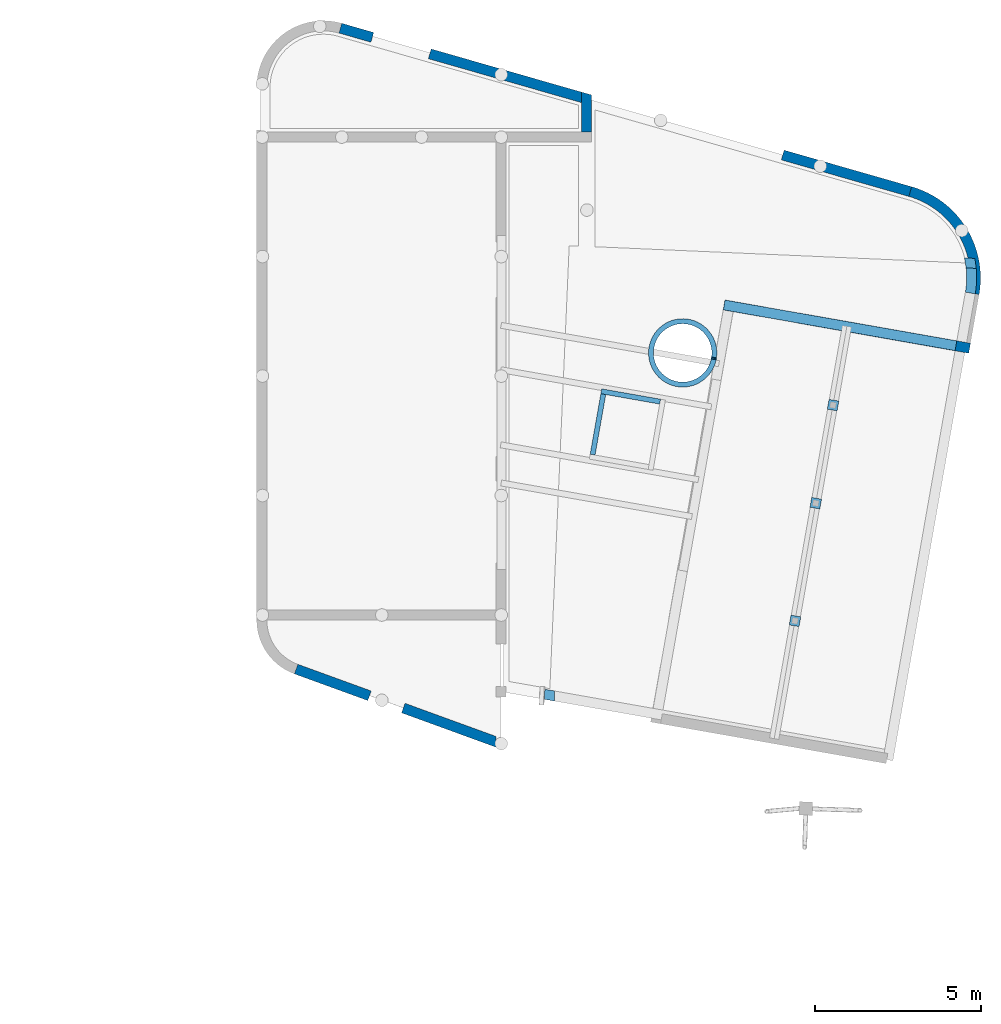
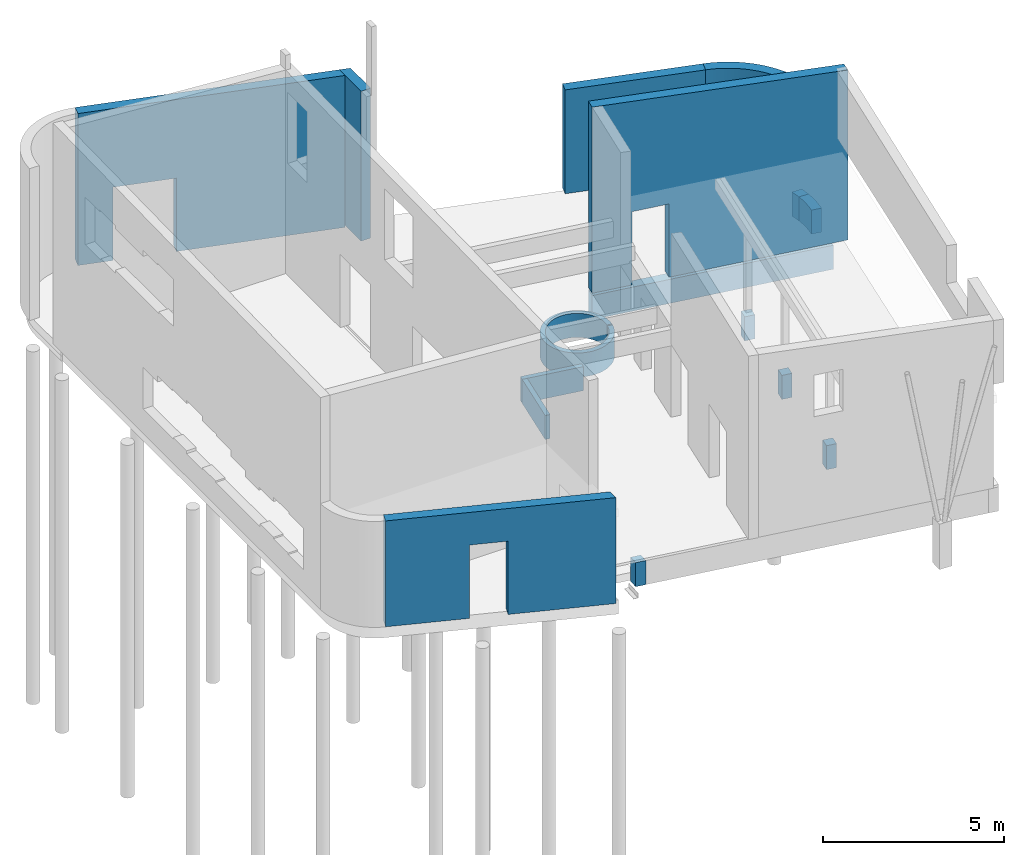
# One storey, part 3 of 3: 17 walls, 3 openings.
"""IFC2X3 building model written with IfcOpenShell, lengths in millimetres."""

from ifc_helpers import new_model, entity, si_unit, converted_unit, derived_unit, direction, frame, frame_2d, origin, place, context, subcontext, project, spatial, polyline, circle_curve, parameter, trimmed, segment, composite_curve, rectangle, outline, extrude, clip, bounded_halfspace, faceted_brep, material, layer, layer_set, layer_usage, type_object, element, save


model = new_model("IFC2X3")

# Units and contexts
model_context = context("Model", 3, precision=0.01, world=origin(), true_north=direction((6.12303176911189e-17, 1.0)))
context_of_model = context(None, 3, precision=0.01, world=origin(), true_north=direction((6.12303176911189e-17, 1.0)))
body_context = subcontext(model_context, "Body", "Model", "MODEL_VIEW")
ifc_project = project(units=[si_unit("LENGTHUNIT", "METRE", prefix="MILLI"), si_unit("AREAUNIT", "SQUARE_METRE"), si_unit("VOLUMEUNIT", "CUBIC_METRE"), converted_unit("PLANEANGLEUNIT", "DEGREE", entity("IfcRatioMeasure", 0.0174532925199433), si_unit("PLANEANGLEUNIT", "RADIAN"), dimensions=[0, 0, 0, 0, 0, 0, 0]), si_unit("MASSUNIT", "GRAM", prefix="KILO"), derived_unit("MASSDENSITYUNIT", [(si_unit("MASSUNIT", "GRAM", prefix="KILO"), 1), (si_unit("LENGTHUNIT", "METRE"), -3)]), derived_unit("MOMENTOFINERTIAUNIT", [(si_unit("LENGTHUNIT", "METRE"), 4)]), si_unit("TIMEUNIT", "SECOND"), si_unit("FREQUENCYUNIT", "HERTZ"), si_unit("THERMODYNAMICTEMPERATUREUNIT", "DEGREE_CELSIUS"), derived_unit("THERMALTRANSMITTANCEUNIT", [(si_unit("MASSUNIT", "GRAM", prefix="KILO"), 1), (si_unit("THERMODYNAMICTEMPERATUREUNIT", "KELVIN"), -1), (si_unit("TIMEUNIT", "SECOND"), -3)]), derived_unit("VOLUMETRICFLOWRATEUNIT", [(si_unit("LENGTHUNIT", "METRE"), 3), (si_unit("TIMEUNIT", "SECOND"), -1)]), si_unit("ELECTRICCURRENTUNIT", "AMPERE"), si_unit("ELECTRICVOLTAGEUNIT", "VOLT"), si_unit("POWERUNIT", "WATT"), si_unit("FORCEUNIT", "NEWTON", prefix="KILO"), si_unit("ILLUMINANCEUNIT", "LUX"), si_unit("LUMINOUSFLUXUNIT", "LUMEN"), si_unit("LUMINOUSINTENSITYUNIT", "CANDELA"), derived_unit("USERDEFINED", [(si_unit("MASSUNIT", "GRAM", prefix="KILO"), -1), (si_unit("LENGTHUNIT", "METRE"), -2), (si_unit("TIMEUNIT", "SECOND"), 3), (si_unit("LUMINOUSFLUXUNIT", "LUMEN"), 1)]), derived_unit("LINEARVELOCITYUNIT", [(si_unit("LENGTHUNIT", "METRE"), 1), (si_unit("TIMEUNIT", "SECOND"), -1)]), si_unit("PRESSUREUNIT", "PASCAL"), derived_unit("USERDEFINED", [(si_unit("LENGTHUNIT", "METRE"), -2), (si_unit("MASSUNIT", "GRAM", prefix="KILO"), 1), (si_unit("TIMEUNIT", "SECOND"), -2)]), derived_unit("LINEARFORCEUNIT", [(si_unit("MASSUNIT", "GRAM", prefix="KILO"), 1), (si_unit("LENGTHUNIT", "METRE"), 1), (si_unit("TIMEUNIT", "SECOND"), -2), (si_unit("LENGTHUNIT", "METRE"), -1)]), derived_unit("PLANARFORCEUNIT", [(si_unit("MASSUNIT", "GRAM", prefix="KILO"), 1), (si_unit("LENGTHUNIT", "METRE"), 1), (si_unit("TIMEUNIT", "SECOND"), -2), (si_unit("LENGTHUNIT", "METRE"), -2)])], contexts=[model_context, context_of_model])

# Site, building, storey
site_placement = place(None, origin())
site = spatial("IfcSite", under=ifc_project, at=site_placement, Name="Default", CompositionType="ELEMENT")
building_placement = place(site_placement, origin())
building = spatial("IfcBuilding", under=site, at=building_placement, Name="IFc", CompositionType="ELEMENT")
storey_placement = place(building_placement, frame((0.0, 0.0, -70.0)))
storey = spatial("IfcBuildingStorey", under=building, at=storey_placement, Name="00 begane grond b.k. ruwe vloer", CompositionType="ELEMENT", Elevation=-70.0)

# Walls
ifc_material_1 = material(Name="IMd_underlayment")
ifc_layer_1 = layer(ifc_material_1, 18.0)
ifc_material_2 = material(Name="IMd_hout")
ifc_layer_2 = layer(ifc_material_2, 270.0)
ifc_layer_3 = layer(ifc_material_1, 18.0)
ifc_layer_set_1 = layer_set([ifc_layer_1, ifc_layer_2, ifc_layer_3], Name="Basic Wall:NLRS_28_WA HSB_d=271")
ifc_layer_usage_1 = layer_usage(ifc_layer_set_1, "AXIS2", "NEGATIVE", 153.0)
wall_type_1 = type_object("IfcWallType", Name="Basic Wall:NLRS_28_WA HSB_d=271", PredefinedType="STANDARD", material=ifc_layer_set_1)
wall_1_placement = place(storey_placement, frame((19759.6696056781, 24550.0, 70.0), z_axis=(0.0, 0.0, 1.0), x_axis=(0.0, 1.0, 0.0)))
element("IfcWallStandardCase", 1, at=wall_1_placement, inside=storey, type_object=wall_type_1, material=ifc_layer_usage_1, Name="Basic Wall:NLRS_28_WA HSB_d=271", ObjectType="Basic Wall:NLRS_28_WA HSB_d=271", context=body_context, shape_type="SweptSolid", body=[
    extrude(outline(polyline([(0.473272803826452, -556.489996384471), (318.816078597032, -556.489996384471), (-12.5768006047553, 598.680518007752), (-306.712550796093, 514.299474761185), (0.473272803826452, -556.489996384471)])), frame((578.936558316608, 0.0, 0.0), z_axis=(0.0, 0.0, 1.0), x_axis=(0.275755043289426, 0.96122794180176, 0.0)), (0.0, 0.0, 1.0), 5049.99999999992),
])
wall_2_placement = place(storey_placement, frame((17077.3165004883, 6159.10750160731, 0.0), z_axis=(0.0, 0.0, 1.0), x_axis=(-0.939722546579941, 0.341937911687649, 0.0)))
element("IfcWall", 2, at=wall_2_placement, inside=storey, type_object=wall_type_1, Name="Basic Wall:NLRS_28_WA HSB_d=271", ObjectType="Basic Wall:NLRS_28_WA HSB_d=271", context=body_context, shape_type="Brep", body=[
    faceted_brep([(111.344567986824, -153.0, 3570.0), (111.344567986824, -153.0, 0.0), (3022.73798114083, -153.0, 0.0), (3022.73798114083, -153.0, 2470.0), (4106.73797699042, -153.0, 2470.0), (4106.73797699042, -153.0, 0.0), (6457.98108461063, -153.0, 0.0), (6457.98108461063, -153.0, 3570.0), (0.0, 153.0, 0.0), (0.0, 153.0, 70.0), (0.0, 153.0, 3570.0), (6457.98108461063, 153.0, 3570.0), (6457.98108461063, 153.0, 0.0), (4106.73797699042, 153.0, 0.0), (4106.73797699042, 153.0, 2470.0), (3022.73798114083, 153.0, 2470.0), (3022.73798114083, 153.0, 0.0)], [[[0, 1, 2, 3, 4, 5, 6, 7]], [[8, 9, 10, 11, 12, 13, 14, 15, 16]], [[0, 10, 9, 8, 1]], [[6, 5, 13, 12]], [[7, 6, 12, 11]], [[0, 7, 11, 10]], [[2, 1, 8, 16]], [[3, 2, 16, 15]], [[4, 3, 15, 14]], [[5, 4, 14, 13]]]),
])
wall_3_placement = place(storey_placement, frame((19648.8601273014, 25580.4905030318, 0.0), z_axis=(0.0, 0.0, 1.0), x_axis=(-0.961227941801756, 0.27575504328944, 0.0)))
element("IfcWall", 3, at=wall_3_placement, inside=storey, type_object=wall_type_1, Name="Basic Wall:NLRS_28_WA HSB_d=271", ObjectType="Basic Wall:NLRS_28_WA HSB_d=271", context=body_context, shape_type="Brep", body=[
    faceted_brep([(87.7846341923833, -153.0, 0.0), (4802.19558161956, -153.0, 0.0), (4802.19558161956, -153.0, 2470.0), (6602.19558161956, -153.0, 2470.0), (6602.19558161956, -153.0, 0.0), (7603.77169760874, -153.0, 0.0), (7603.77169760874, -153.0, 5120.0), (87.7846341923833, -153.0, 5120.0), (87.7846341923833, -153.0, 70.0), (0.0, 153.0, 0.0), (0.0, 153.0, 5120.0), (7603.77169760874, 153.0, 5120.0), (7603.77169760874, 153.0, 0.0), (6602.19558161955, 153.0, 0.0), (6602.19558161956, 153.0, 2470.0), (4802.19558161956, 153.0, 2470.0), (4802.19558161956, 153.0, 0.0)], [[[0, 1, 2, 3, 4, 5, 6, 7, 8]], [[9, 10, 11, 12, 13, 14, 15, 16]], [[1, 0, 9, 16]], [[6, 5, 12, 11]], [[7, 6, 11, 10]], [[2, 1, 16, 15]], [[3, 2, 15, 14]], [[4, 3, 14, 13]], [[5, 4, 13, 12]], [[0, 8, 7, 10, 9]]]),
])
ifc_layer_usage_2 = layer_usage(ifc_layer_set_1, "AXIS2", "NEGATIVE", 153.0)
wall_4_placement = place(storey_placement, frame((29511.3582669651, 22753.3064815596, 70.0), z_axis=(0.0, 0.0, 1.0), x_axis=(-0.961261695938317, 0.275637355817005, 0.0)))
element("IfcWallStandardCase", 4, at=wall_4_placement, inside=storey, type_object=wall_type_1, material=ifc_layer_usage_2, Name="Basic Wall:NLRS_28_WA HSB_d=271", ObjectType="Basic Wall:NLRS_28_WA HSB_d=271", context=body_context, shape_type="SweptSolid", body=[
    extrude(rectangle(XDim=3999.22918546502, YDim=306.000000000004, at=frame_2d((1999.61459273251, 5.82645043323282e-13), x_axis=(-1.0, 0.0))), origin(), (0.0, 0.0, 1.0), 3499.99999999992),
])

# Wall, opening
ifc_layer_usage_3 = layer_usage(ifc_layer_set_1, "AXIS2", "NEGATIVE", 153.0)
wall_5_placement = place(storey_placement, frame((31298.7644464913, 18034.5306784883, 70.0), z_axis=(0.0, 0.0, 1.0), x_axis=(-0.984807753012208, 0.173648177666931, 0.0)))
wall_5 = element("IfcWallStandardCase", 5, at=wall_5_placement, inside=storey, type_object=wall_type_1, material=ifc_layer_usage_3, Name="Basic Wall:NLRS_28_WA HSB_d=271", ObjectType="Basic Wall:NLRS_28_WA HSB_d=271", context=body_context, shape_type="Clipping", body=[
    clip(extrude(rectangle(XDim=7511.58881505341, YDim=306.0, at=frame_2d((3755.79440752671, 4.12114786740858e-13), x_axis=(-1.0, 0.0))), origin(), (0.0, 0.0, 1.0), 6274.69975053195), bounded_halfspace(frame((0.0101037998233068, -153.0, 5728.6161692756), z_axis=(0.0725054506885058, -0.00762051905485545, -0.997338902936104), x_axis=(0.991875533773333, -0.104248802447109, 0.0729048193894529)), True, frame((0.0101037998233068, -153.0, 5728.6161692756)), polyline([(0.0, 0.0), (7511.57871125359, 0.0), (7511.57871125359, 306.0), (7205.57871125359, 306.0), (305.989896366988, 306.0), (-0.0101037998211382, 306.0), (0.0, 0.0)]))),
])
opening_1_placement = place(wall_5_placement, origin())
element("IfcOpeningElement", 6, at=opening_1_placement, cuts=wall_5, Name="Basic Wall:NLRS_28_WA HSB_d=271", ObjectType="Opening", context=body_context, shape_type="SweptSolid", body=[
    extrude(rectangle(XDim=2470.00000000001, YDim=1083.99999999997, at=frame_2d((0.0, 0.0), x_axis=(0.0, 1.0))), frame((5795.27387890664, 153.0, 1235.0), z_axis=(0.0, -1.0, 0.0), x_axis=(1.0, 0.0, 0.0)), (0.0, 0.0, 1.0), 306.0),
])

# Walls
ifc_layer_usage_4 = layer_usage(ifc_layer_set_1, "AXIS2", "POSITIVE", -153.0)
wall_6_placement = place(storey_placement, frame((29511.3582669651, 22753.3064815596, 70.0)))
element("IfcWallStandardCase", 7, at=wall_6_placement, inside=storey, type_object=wall_type_1, material=ifc_layer_usage_4, Name="Basic Wall:NLRS_28_WA HSB_d=271", ObjectType="Basic Wall:NLRS_28_WA HSB_d=271", context=body_context, shape_type="SweptSolid", body=[
    extrude(outline(composite_curve([segment(trimmed(circle_curve(frame_2d((-745.960612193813, -2604.27029416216), x_axis=(1.0, 0.0)), 2862.0), [parameter(350.000000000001)], [parameter(74.016302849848)], True, "PARAMETER"), True, "CONTINUOUS"), segment(polyline([(42.1306658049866, 147.085033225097), (-42.130665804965, -147.085033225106)]), True, "CONTINUOUS"), segment(trimmed(circle_curve(frame_2d((-745.960612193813, -2604.27029416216), x_axis=(1.0, 0.0)), 2556.0), [parameter(350.000000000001)], [parameter(74.016302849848)], True, "PARAMETER"), False, "CONTINUOUS"), segment(polyline([(1771.2080045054, -3048.11503627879), (2072.55917692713, -3101.25137864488)]), True, "CONTINUOUS")], self_intersect=False)), origin(), (0.0, 0.0, 1.0), 3499.99999999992),
])
ifc_material_3 = material(Name="IMd_beton_prefab")
ifc_layer_4 = layer(ifc_material_3, 300.0)
ifc_layer_set_2 = layer_set([ifc_layer_4], Name="Basic Wall:NLRS_16_WA Funderingsbalk_beton_prefab_300x810")
ifc_layer_usage_5 = layer_usage(ifc_layer_set_2, "AXIS2", "NEGATIVE", 150.0)
wall_type_2 = type_object("IfcWallType", Name="Basic Wall:NLRS_16_WA Funderingsbalk_beton_prefab_300x810", PredefinedType="STANDARD", material=ifc_layer_set_2)
wall_7_placement = place(storey_placement, frame((23904.2418366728, 19338.3474189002, -820.0), z_axis=(0.0, 0.0, 1.0), x_axis=(0.984850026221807, -0.173408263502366, 0.0)))
element("IfcWallStandardCase", 8, at=wall_7_placement, inside=storey, type_object=wall_type_2, material=ifc_layer_usage_5, Name="Basic Wall:NLRS_16_WA Funderingsbalk_beton_prefab_300x810", ObjectType="Basic Wall:NLRS_16_WA Funderingsbalk_beton_prefab_300x810", context=body_context, shape_type="SweptSolid", body=[
    extrude(outline(polyline([(7090.55211074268, -150.0), (7090.61528805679, 150.0), (0.0, 150.0), (0.0, -150.0), (300.0, -150.0), (7090.55211074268, -150.0)])), origin(), (0.0, 0.0, 1.0), 810.0),
])
ifc_layer_usage_6 = layer_usage(ifc_layer_set_2, "AXIS2", "POSITIVE", -150.0)
wall_8_placement = place(storey_placement, frame((31344.3780423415, 20469.9798954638, -820.0)))
element("IfcWallStandardCase", 9, at=wall_8_placement, inside=storey, type_object=wall_type_2, material=ifc_layer_usage_6, Name="Basic Wall:NLRS_16_WA Funderingsbalk_beton_prefab_300x810", ObjectType="Basic Wall:NLRS_16_WA Funderingsbalk_beton_prefab_300x810", context=body_context, shape_type="SweptSolid", body=[
    extrude(outline(composite_curve([segment(trimmed(circle_curve(frame_2d((-2692.23049711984, -300.958386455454), x_axis=(1.0, 0.0)), 2859.0), [parameter(350.001891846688)], [parameter(5.44015134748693)], True, "PARAMETER"), True, "CONTINUOUS"), segment(polyline([(153.891913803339, -29.908165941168), (-149.07145609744, -16.6643624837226)]), True, "CONTINUOUS"), segment(trimmed(circle_curve(frame_2d((-2692.23049711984, -300.958386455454), x_axis=(1.0, 0.0)), 2559.0), [parameter(350.001891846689)], [parameter(6.37848459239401)], True, "PARAMETER"), False, "CONTINUOUS"), segment(polyline([(-172.09278604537, -745.24086103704), (123.351259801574, -797.325559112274)]), True, "CONTINUOUS")], self_intersect=False)), origin(), (0.0, 0.0, 1.0), 810.0),
])
ifc_layer_usage_7 = layer_usage(ifc_layer_set_2, "AXIS2", "NEGATIVE", 150.0)
wall_9_placement = place(storey_placement, frame((27158.8635610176, 16172.1722400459, -820.0), z_axis=(0.0, 0.0, 1.0), x_axis=(0.173408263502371, 0.984850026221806, 0.0)))
element("IfcWallStandardCase", 10, at=wall_9_placement, inside=storey, type_object=wall_type_2, material=ifc_layer_usage_7, Name="Basic Wall:NLRS_16_WA Funderingsbalk_beton_prefab_300x810", ObjectType="Basic Wall:NLRS_16_WA Funderingsbalk_beton_prefab_300x810", context=body_context, shape_type="SweptSolid", body=[
    extrude(rectangle(XDim=299.999999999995, YDim=299.999999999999, at=frame_2d((149.999999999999, 8.81072992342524e-13), x_axis=(-1.0, 0.0))), origin(), (0.0, 0.0, 1.0), 810.0),
])
ifc_layer_usage_8 = layer_usage(ifc_layer_set_2, "AXIS2", "NEGATIVE", 150.0)
wall_10_placement = place(storey_placement, frame((26637.9190280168, 13217.7489810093, -820.0), z_axis=(0.0, 0.0, 1.0), x_axis=(0.173408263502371, 0.984850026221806, 0.0)))
element("IfcWallStandardCase", 11, at=wall_10_placement, inside=storey, type_object=wall_type_2, material=ifc_layer_usage_8, Name="Basic Wall:NLRS_16_WA Funderingsbalk_beton_prefab_300x810", ObjectType="Basic Wall:NLRS_16_WA Funderingsbalk_beton_prefab_300x810", context=body_context, shape_type="SweptSolid", body=[
    extrude(rectangle(XDim=300.000000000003, YDim=300.0, at=frame_2d((150.000000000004, 1.63424829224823e-12), x_axis=(-1.0, 0.0))), origin(), (0.0, 0.0, 1.0), 810.0),
])
ifc_layer_usage_9 = layer_usage(ifc_layer_set_2, "AXIS2", "NEGATIVE", 150.0)
wall_11_placement = place(storey_placement, frame((26012.7855884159, 9672.44107016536, -820.0), z_axis=(0.0, 0.0, 1.0), x_axis=(0.173408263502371, 0.984850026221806, 0.0)))
element("IfcWallStandardCase", 12, at=wall_11_placement, inside=storey, type_object=wall_type_2, material=ifc_layer_usage_9, Name="Basic Wall:NLRS_16_WA Funderingsbalk_beton_prefab_300x810", ObjectType="Basic Wall:NLRS_16_WA Funderingsbalk_beton_prefab_300x810", context=body_context, shape_type="SweptSolid", body=[
    extrude(rectangle(XDim=299.999999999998, YDim=299.999999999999, at=frame_2d((150.000000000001, 1.16529008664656e-12), x_axis=(-1.0, 0.0))), origin(), (0.0, 0.0, 1.0), 810.0),
])

# Wall, opening
ifc_layer_usage_10 = layer_usage(ifc_layer_set_2, "AXIS2", "NEGATIVE", 150.0)
wall_12_placement = place(storey_placement, frame((31139.364782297, 20605.9042360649, -820.0), z_axis=(0.0, 0.0, 1.0), x_axis=(0.999045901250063, -0.0436724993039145, 0.0)))
wall_12 = element("IfcWallStandardCase", 13, at=wall_12_placement, inside=storey, type_object=wall_type_2, material=ifc_layer_usage_10, Name="Basic Wall:NLRS_16_WA Funderingsbalk_beton_prefab_300x810", ObjectType="Basic Wall:NLRS_16_WA Funderingsbalk_beton_prefab_300x810", context=body_context, shape_type="SweptSolid", body=[
    extrude(outline(composite_curve([segment(polyline([(307.452557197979, 150.0), (0.0, 150.0)]), True, "CONTINUOUS"), segment(polyline([(0.0, 150.0), (62.5111492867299, -150.0)]), True, "CONTINUOUS"), segment(polyline([(62.5111492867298, -150.0), (365.805062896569, -150.0)]), True, "CONTINUOUS"), segment(trimmed(circle_curve(frame_2d((-2465.76442562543, -545.08889084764), x_axis=(0.999045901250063, 0.0436724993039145)), 2859.0), [parameter(5.44015134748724)], [parameter(11.5678947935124)], True, "PARAMETER"), True, "CONTINUOUS")], self_intersect=False)), origin(), (0.0, 0.0, 1.0), 810.0),
])
opening_2_placement = place(wall_12_placement, origin())
element("IfcOpeningElement", 14, at=opening_2_placement, cuts=wall_12, Name="Basic Wall:NLRS_16_WA Funderingsbalk_beton_prefab_300x810", ObjectType="Opening", context=body_context, shape_type="SweptSolid", body=[
    extrude(rectangle(XDim=1000.0, YDim=160.0, at=frame_2d((0.0, -3.48165940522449e-13), x_axis=(1.0, 0.0))), frame((8.85226316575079, -284.661057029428, 470.0), z_axis=(-0.203989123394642, 0.978973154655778, 0.0), x_axis=(0.0, 0.0, 1.0)), (0.0, 0.0, 1.0), 454.55791906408),
])

ifc_layer_usage_11 = layer_usage(ifc_layer_set_2, "AXIS2", "NEGATIVE", 150.0)
wall_13_placement = place(storey_placement, frame((18635.7317877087, 7411.4842557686, -820.0), z_axis=(0.0, 0.0, 1.0), x_axis=(0.0436724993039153, 0.999045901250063, 0.0)))
wall_13 = element("IfcWallStandardCase", 15, at=wall_13_placement, inside=storey, type_object=wall_type_2, material=ifc_layer_usage_11, Name="Basic Wall:NLRS_16_WA Funderingsbalk_beton_prefab_300x810", ObjectType="Basic Wall:NLRS_16_WA Funderingsbalk_beton_prefab_300x810", context=body_context, shape_type="SweptSolid", body=[
    extrude(outline(polyline([(342.066094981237, 150.0), (39.4795241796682, 150.0), (0.0, -150.0), (302.586570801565, -150.0), (342.066094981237, 150.0)])), origin(), (0.0, 0.0, 1.0), 810.0),
])
opening_3_placement = place(wall_13_placement, origin())
element("IfcOpeningElement", 16, at=opening_3_placement, cuts=wall_13, Name="Basic Wall:NLRS_16_WA Funderingsbalk_beton_prefab_300x810", ObjectType="Opening", context=body_context, shape_type="SweptSolid", body=[
    extrude(rectangle(XDim=1000.0, YDim=140.0, at=frame_2d((0.0, 7.17648163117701e-13), x_axis=(1.0, 0.0))), frame((-101.558283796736, -385.221304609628, 470.0), z_axis=(0.130473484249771, 0.991451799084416, 0.0), x_axis=(0.0, 0.0, 1.0)), (0.0, 0.0, 1.0), 589.999999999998),
])

# Walls
ifc_layer_5 = layer(ifc_material_3, 150.0)
ifc_layer_set_3 = layer_set([ifc_layer_5], Name="Basic Wall:NLRS_16_WA Funderingsbalk_beton_prefab_150x810")
ifc_layer_usage_12 = layer_usage(ifc_layer_set_3, "AXIS2", "NEGATIVE", 75.0)
wall_type_3 = type_object("IfcWallType", Name="Basic Wall:NLRS_16_WA Funderingsbalk_beton_prefab_150x810", PredefinedType="STANDARD", material=ifc_layer_set_3)
wall_14_placement = place(storey_placement, frame((23598.5390452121, 17750.7490171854, -820.0), z_axis=(0.0, 0.0, 1.0), x_axis=(0.999999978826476, 0.000205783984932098, 0.0)))
element("IfcWallStandardCase", 17, at=wall_14_placement, inside=storey, type_object=wall_type_3, material=ifc_layer_usage_12, Name="Basic Wall:NLRS_16_WA Funderingsbalk_beton_prefab_150x810", ObjectType="Basic Wall:NLRS_16_WA Funderingsbalk_beton_prefab_150x810", context=body_context, shape_type="SweptSolid", body=[
    extrude(outline(composite_curve([segment(trimmed(circle_curve(frame_2d((-944.216718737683, 143.107610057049), x_axis=(1.0, 0.0)), 880.0), [parameter(351.495814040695)], [parameter(348.480604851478)], True, "PARAMETER"), False, "CONTINUOUS"), segment(polyline([(-73.8922642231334, 12.97174307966), (74.1531454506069, -11.2388175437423)]), True, "CONTINUOUS"), segment(polyline([(74.1531454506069, -11.2388175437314), (84.2449452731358, 86.8350087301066)]), True, "CONTINUOUS"), segment(polyline([(84.2449452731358, 86.8350087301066), (84.9143344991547, 185.407435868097)]), True, "CONTINUOUS"), segment(polyline([(84.9143344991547, 185.407435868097), (76.1539194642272, 283.597913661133)]), True, "CONTINUOUS"), segment(polyline([(76.1539194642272, 283.597913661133), (54.8556749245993, 393.615797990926)]), True, "CONTINUOUS"), segment(polyline([(54.8556749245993, 393.615797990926), (21.7263793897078, 500.674290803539)]), True, "CONTINUOUS"), segment(polyline([(21.7263793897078, 500.674290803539), (-22.837873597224, 603.499859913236)]), True, "CONTINUOUS"), segment(polyline([(-22.837873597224, 603.499859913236), (-78.3095257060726, 700.875243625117)]), True, "CONTINUOUS"), segment(polyline([(-78.3095257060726, 700.875243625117), (-144.031895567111, 791.647700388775)]), True, "CONTINUOUS"), segment(polyline([(-144.031895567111, 791.647700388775), (-219.22695266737, 874.742655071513)]), True, "CONTINUOUS"), segment(polyline([(-219.22695266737, 874.742655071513), (-303.004527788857, 949.176419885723)]), True, "CONTINUOUS"), segment(polyline([(-303.004527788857, 949.176419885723), (-394.372850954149, 1014.06783937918)]), True, "CONTINUOUS"), segment(polyline([(-394.372850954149, 1014.06783937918), (-492.250292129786, 1068.6487216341)]), True, "CONTINUOUS"), segment(polyline([(-492.250292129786, 1068.6487216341), (-595.478165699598, 1112.27293218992)]), True, "CONTINUOUS"), segment(polyline([(-595.478165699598, 1112.27293218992), (-702.834447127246, 1144.42404303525)]), True, "CONTINUOUS"), segment(polyline([(-702.834447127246, 1144.42404303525), (-813.048239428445, 1164.72144612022)]), True, "CONTINUOUS"), segment(polyline([(-813.048239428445, 1164.72144612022), (-924.814818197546, 1172.924859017)]), True, "CONTINUOUS"), segment(polyline([(-924.814818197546, 1172.924859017), (-1036.81107708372, 1168.93716939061)]), True, "CONTINUOUS"), segment(polyline([(-1036.81107708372, 1168.93716939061), (-1147.71119087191, 1152.80558460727)]), True, "CONTINUOUS"), segment(polyline([(-1147.71119087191, 1152.80558460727), (-1256.20231074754, 1124.72107287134)]), True, "CONTINUOUS"), segment(polyline([(-1256.20231074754, 1124.72107287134), (-1361.00010594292, 1085.01610250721)]), True, "CONTINUOUS"), segment(polyline([(-1361.00010594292, 1085.01610250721), (-1460.86396778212, 1034.16070614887)]), True, "CONTINUOUS"), segment(polyline([(-1460.86396778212, 1034.16070614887), (-1554.61169613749, 972.756916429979)]), True, "CONTINUOUS"), segment(polyline([(-1554.61169613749, 972.756916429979), (-1641.13349443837, 901.531639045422)]), True, "CONTINUOUS"), segment(polyline([(-1641.13349443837, 901.531639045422), (-1719.40510755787, 821.328047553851)]), True, "CONTINUOUS"), segment(polyline([(-1719.40510755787, 821.328047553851), (-1788.49994705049, 733.095601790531)]), True, "CONTINUOUS"), segment(polyline([(-1788.49994705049, 733.095601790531), (-1847.60006020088, 637.878808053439)]), True, "CONTINUOUS"), segment(polyline([(-1847.60006020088, 637.878808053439), (-1896.00581303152, 536.804854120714)]), True, "CONTINUOUS"), segment(polyline([(-1896.00581303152, 536.804854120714), (-1933.14417264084, 431.070265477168)]), True, "CONTINUOUS"), segment(polyline([(-1933.14417264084, 431.070265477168), (-1958.57549082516, 321.926740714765)]), True, "CONTINUOUS"), segment(polyline([(-1958.57549082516, 321.926740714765), (-1971.99870867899, 210.666333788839)]), True, "CONTINUOUS"), segment(polyline([(-1971.99870867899, 210.666333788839), (-1973.2549205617, 98.6061585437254)]), True, "CONTINUOUS"), segment(polyline([(-1973.2549205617, 98.6061585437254), (-1962.32925523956, -12.9272034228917)]), True, "CONTINUOUS"), segment(polyline([(-1962.32925523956, -12.9272034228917), (-1939.35105193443, -122.613406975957)]), True, "CONTINUOUS"), segment(polyline([(-1939.35105193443, -122.613406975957), (-1904.59232919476, -229.153973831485)]), True, "CONTINUOUS"), segment(polyline([(-1904.59232919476, -229.153973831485), (-1858.46456471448, -331.287664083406)]), True, "CONTINUOUS"), segment(polyline([(-1858.46456471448, -331.287664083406), (-1801.51382422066, -427.805406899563)]), True, "CONTINUOUS"), segment(polyline([(-1801.51382422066, -427.805406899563), (-1734.4142970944, -517.564613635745)]), True, "CONTINUOUS"), segment(polyline([(-1734.4142970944, -517.564613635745), (-1657.96031525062, -599.502703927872)]), True, "CONTINUOUS"), segment(polyline([(-1657.96031525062, -599.502703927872), (-1573.05694975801, -672.649684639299)]), True, "CONTINUOUS"), segment(polyline([(-1573.05694975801, -672.649684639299), (-1480.709296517, -736.139632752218)]), True, "CONTINUOUS"), segment(polyline([(-1480.709296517, -736.139632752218), (-1382.01057783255, -789.220946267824)]), True, "CONTINUOUS"), segment(polyline([(-1382.01057783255, -789.220946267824), (-1278.1292007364, -831.265241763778)]), True, "CONTINUOUS"), segment(polyline([(-1278.1292007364, -831.265241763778), (-1170.29492526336, -861.774793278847)]), True, "CONTINUOUS"), segment(polyline([(-1170.29492526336, -861.774793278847), (-1059.78430642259, -880.388424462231)]), True, "CONTINUOUS"), segment(polyline([(-1059.78430642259, -880.388424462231), (-947.905582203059, -886.885784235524)]), True, "CONTINUOUS"), segment(polyline([(-947.905582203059, -886.885784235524), (-835.983186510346, -881.189955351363)]), True, "CONTINUOUS"), segment(polyline([(-835.983186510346, -881.189955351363), (-725.342070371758, -863.368364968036)]), True, "CONTINUOUS"), segment(polyline([(-725.342070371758, -863.368364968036), (-617.292017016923, -833.63198646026)]), True, "CONTINUOUS"), segment(polyline([(-617.292017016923, -833.63198646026), (-513.112136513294, -792.332841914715)]), True, "CONTINUOUS"), segment(polyline([(-513.112136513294, -792.332841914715), (-414.035723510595, -739.959834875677)]), True, "CONTINUOUS"), segment(polyline([(-414.035723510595, -739.959834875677), (-321.235657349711, -677.132962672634)]), True, "CONTINUOUS"), segment(polyline([(-321.235657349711, -677.132962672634), (-235.810517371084, -604.595976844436)]), True, "CONTINUOUS"), segment(polyline([(-235.810517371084, -604.595976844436), (-158.771577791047, -523.207578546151)]), True, "CONTINUOUS"), segment(polyline([(-158.771577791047, -523.207578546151), (-91.0308361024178, -433.931253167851)]), True, "CONTINUOUS"), segment(polyline([(-91.0308361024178, -433.931253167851), (-33.3959214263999, -337.828124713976)]), True, "CONTINUOUS"), segment(polyline([(-33.3959214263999, -337.828124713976), (8.34877326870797, -248.707376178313)]), True, "CONTINUOUS"), segment(polyline([(8.34877326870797, -248.707376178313), (41.3929359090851, -156.013784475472)]), True, "CONTINUOUS"), segment(polyline([(41.3929359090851, -156.013784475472), (65.443772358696, -60.5727589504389)]), True, "CONTINUOUS"), segment(polyline([(65.4437723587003, -60.5727589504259), (-81.9424174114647, -32.6280700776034)]), True, "CONTINUOUS")], self_intersect=False)), origin(), (0.0, 0.0, 1.0), 810.000000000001),
])
ifc_layer_usage_13 = layer_usage(ifc_layer_set_3, "AXIS2", "NEGATIVE", 75.0)
wall_15_placement = place(storey_placement, frame((20201.3635393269, 16737.5731920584, -820.0), z_axis=(0.0, 0.0, 1.0), x_axis=(0.984807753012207, -0.173648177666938, 0.0)))
element("IfcWallStandardCase", 18, at=wall_15_placement, inside=storey, type_object=wall_type_3, material=ifc_layer_usage_13, Name="Basic Wall:NLRS_16_WA Funderingsbalk_beton_prefab_150x810", ObjectType="Basic Wall:NLRS_16_WA Funderingsbalk_beton_prefab_150x810", context=body_context, shape_type="SweptSolid", body=[
    extrude(rectangle(XDim=1799.94683873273, YDim=150.000000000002, at=frame_2d((899.973419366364, 4.19220214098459e-13), x_axis=(-1.0, 0.0))), origin(), (0.0, 0.0, 1.0), 810.0),
])
ifc_layer_usage_14 = layer_usage(ifc_layer_set_3, "AXIS2", "NEGATIVE", 75.0)
wall_16_placement = place(storey_placement, frame((20262.2005074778, 16650.6889972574, -820.0), z_axis=(0.0, 0.0, 1.0), x_axis=(-0.173648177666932, -0.984807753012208, 0.0)))
element("IfcWallStandardCase", 19, at=wall_16_placement, inside=storey, type_object=wall_type_3, material=ifc_layer_usage_14, Name="Basic Wall:NLRS_16_WA Funderingsbalk_beton_prefab_150x810", ObjectType="Basic Wall:NLRS_16_WA Funderingsbalk_beton_prefab_150x810", context=body_context, shape_type="SweptSolid", body=[
    extrude(rectangle(XDim=1850.0, YDim=149.999999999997, at=frame_2d((925.000000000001, -1.70530256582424e-13), x_axis=(-1.0, 0.0))), origin(), (0.0, 0.0, 1.0), 810.0),
])
ifc_layer_usage_15 = layer_usage(ifc_layer_set_3, "AXIS2", "NEGATIVE", 75.0)
wall_17_placement = place(storey_placement, frame((23590.1346996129, 17703.2133401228, -820.0), z_axis=(0.0, 0.0, 1.0), x_axis=(0.173648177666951, 0.984807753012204, 0.0)))
element("IfcWallStandardCase", 20, at=wall_17_placement, inside=storey, type_object=wall_type_3, material=ifc_layer_usage_15, Name="Basic Wall:NLRS_16_WA Funderingsbalk_beton_prefab_150x810", ObjectType="Basic Wall:NLRS_16_WA Funderingsbalk_beton_prefab_150x810", context=body_context, shape_type="SweptSolid", body=[
    extrude(outline(polyline([(50.0968158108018, -75.0), (48.200880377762, 75.0), (1.89593543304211, 75.0), (0.0, -75.0), (50.0968158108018, -75.0)])), origin(), (0.0, 0.0, 1.0), 810.0),
])

save(model, "model.ifc")
